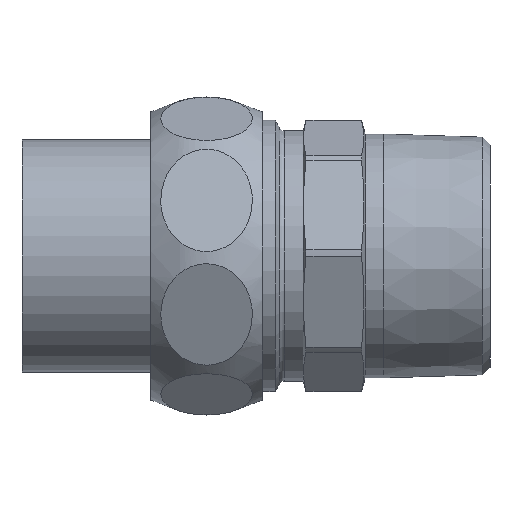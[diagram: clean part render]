
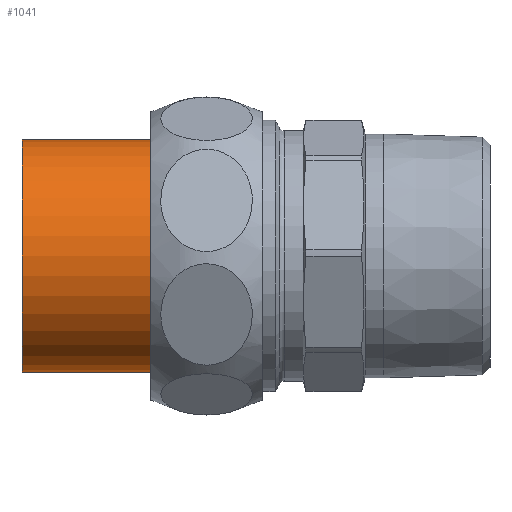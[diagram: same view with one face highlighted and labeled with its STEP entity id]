
A CAD part, front view. The second image highlights one B-rep face of the part: STEP entity #1041.
In plain terms, the highlighted cylindrical face has radius 22.95 mm (diameter 45.9 mm), a full revolution.
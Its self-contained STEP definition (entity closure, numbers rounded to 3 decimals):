
#128=LINE('',#1664,#163);
#163=VECTOR('',#1341,22.95);
#198=CYLINDRICAL_SURFACE('',#1184,22.95);
#218=FACE_OUTER_BOUND('',#274,.T.);
#274=EDGE_LOOP('',(#720,#721,#722,#723,#724,#725,#726));
#345=CIRCLE('',#1178,22.95);
#349=CIRCLE('',#1182,22.95);
#350=CIRCLE('',#1183,22.95);
#351=CIRCLE('',#1185,22.95);
#352=CIRCLE('',#1186,22.95);
#429=VERTEX_POINT('',#1651);
#430=VERTEX_POINT('',#1652);
#433=VERTEX_POINT('',#1659);
#434=VERTEX_POINT('',#1663);
#435=VERTEX_POINT('',#1665);
#551=EDGE_CURVE('',#429,#430,#345,.T.);
#555=EDGE_CURVE('',#430,#433,#349,.T.);
#556=EDGE_CURVE('',#433,#429,#350,.T.);
#557=EDGE_CURVE('',#433,#434,#128,.T.);
#558=EDGE_CURVE('',#434,#435,#351,.T.);
#559=EDGE_CURVE('',#435,#434,#352,.T.);
#720=ORIENTED_EDGE('',*,*,#551,.F.);
#721=ORIENTED_EDGE('',*,*,#556,.F.);
#722=ORIENTED_EDGE('',*,*,#557,.T.);
#723=ORIENTED_EDGE('',*,*,#558,.T.);
#724=ORIENTED_EDGE('',*,*,#559,.T.);
#725=ORIENTED_EDGE('',*,*,#557,.F.);
#726=ORIENTED_EDGE('',*,*,#555,.F.);
#1041=ADVANCED_FACE('',(#218),#198,.T.);
#1178=AXIS2_PLACEMENT_3D('',#1653,#1327,#1328);
#1182=AXIS2_PLACEMENT_3D('',#1660,#1335,#1336);
#1183=AXIS2_PLACEMENT_3D('',#1661,#1337,#1338);
#1184=AXIS2_PLACEMENT_3D('',#1662,#1339,#1340);
#1185=AXIS2_PLACEMENT_3D('',#1666,#1342,#1343);
#1186=AXIS2_PLACEMENT_3D('',#1667,#1344,#1345);
#1327=DIRECTION('center_axis',(1.,0.,0.));
#1328=DIRECTION('ref_axis',(0.,-1.,0.));
#1335=DIRECTION('center_axis',(1.,0.,0.));
#1336=DIRECTION('ref_axis',(0.,-1.,0.));
#1337=DIRECTION('center_axis',(1.,0.,0.));
#1338=DIRECTION('ref_axis',(0.,-1.,0.));
#1339=DIRECTION('center_axis',(1.,0.,0.));
#1340=DIRECTION('ref_axis',(0.,1.,0.));
#1341=DIRECTION('',(-1.,0.,0.));
#1342=DIRECTION('center_axis',(1.,0.,0.));
#1343=DIRECTION('ref_axis',(0.,1.,0.));
#1344=DIRECTION('center_axis',(1.,0.,0.));
#1345=DIRECTION('ref_axis',(0.,1.,0.));
#1651=CARTESIAN_POINT('',(9.,22.95,0.));
#1652=CARTESIAN_POINT('',(9.,0.,22.95));
#1653=CARTESIAN_POINT('Origin',(9.,0.,0.));
#1659=CARTESIAN_POINT('',(9.,-22.95,0.));
#1660=CARTESIAN_POINT('Origin',(9.,0.,0.));
#1661=CARTESIAN_POINT('Origin',(9.,0.,0.));
#1662=CARTESIAN_POINT('Origin',(-5.,0.,0.));
#1663=CARTESIAN_POINT('',(-20.,-22.95,0.));
#1664=CARTESIAN_POINT('',(-5.,-22.95,0.));
#1665=CARTESIAN_POINT('',(-20.,22.95,0.));
#1666=CARTESIAN_POINT('Origin',(-20.,0.,0.));
#1667=CARTESIAN_POINT('Origin',(-20.,0.,0.));
